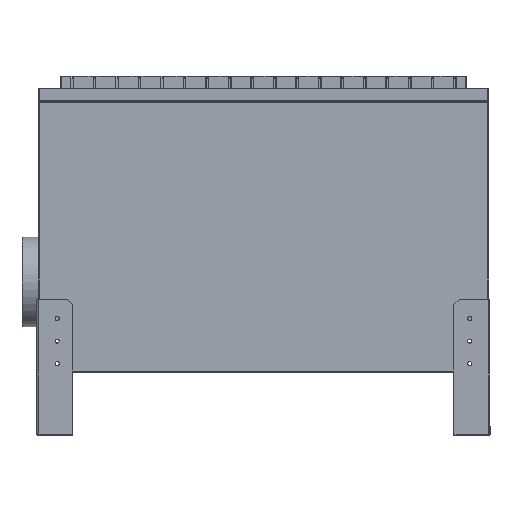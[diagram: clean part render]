
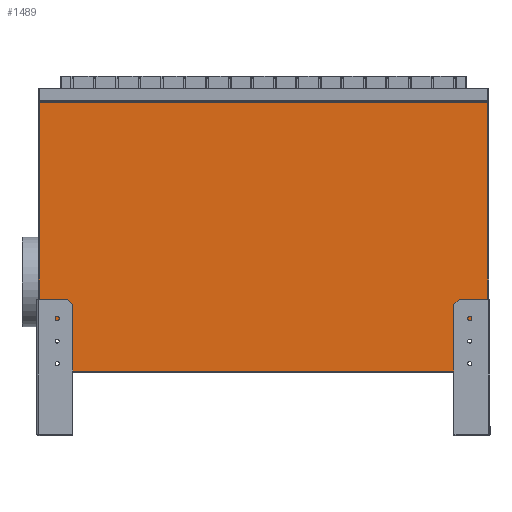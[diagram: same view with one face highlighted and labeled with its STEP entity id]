
A CAD part, front view. The second image highlights one B-rep face of the part: STEP entity #1489.
In plain terms, the highlighted planar face has unit normal (0, -1, 0).
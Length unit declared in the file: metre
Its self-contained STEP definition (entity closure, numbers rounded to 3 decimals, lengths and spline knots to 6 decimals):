
#1489=ADVANCED_FACE('0:1859',(#3060,#3061,#3062,#3063,#3064),#3065,.F.);
#3060=FACE_OUTER_BOUND('',#5064,.T.);
#3061=FACE_BOUND('',#5065,.T.);
#3062=FACE_BOUND('',#5066,.T.);
#3063=FACE_BOUND('',#5067,.T.);
#3064=FACE_BOUND('',#5068,.T.);
#3065=PLANE('',#5069);
#5064=EDGE_LOOP('',(#8254,#8255,#8256,#8257));
#5065=EDGE_LOOP('',(#8258,#8259,#8260,#8261,#8262,#8263));
#5066=EDGE_LOOP('',(#8264,#8265,#8266,#8267,#8268,#8269));
#5067=EDGE_LOOP('',(#8270,#8271,#8272,#8273,#8274,#8275));
#5068=EDGE_LOOP('',(#8276,#8277,#8278,#8279,#8280,#8281));
#5069=AXIS2_PLACEMENT_3D('',#8282,#8283,#8284);
#8254=ORIENTED_EDGE('',*,*,#12759,.F.);
#8255=ORIENTED_EDGE('',*,*,#12760,.F.);
#8256=ORIENTED_EDGE('',*,*,#12761,.F.);
#8257=ORIENTED_EDGE('',*,*,#12762,.F.);
#8258=ORIENTED_EDGE('',*,*,#12737,.T.);
#8259=ORIENTED_EDGE('',*,*,#12757,.T.);
#8260=ORIENTED_EDGE('',*,*,#12753,.T.);
#8261=ORIENTED_EDGE('',*,*,#12749,.T.);
#8262=ORIENTED_EDGE('',*,*,#12745,.T.);
#8263=ORIENTED_EDGE('',*,*,#12741,.T.);
#8264=ORIENTED_EDGE('',*,*,#12713,.T.);
#8265=ORIENTED_EDGE('',*,*,#12733,.T.);
#8266=ORIENTED_EDGE('',*,*,#12729,.T.);
#8267=ORIENTED_EDGE('',*,*,#12725,.T.);
#8268=ORIENTED_EDGE('',*,*,#12721,.T.);
#8269=ORIENTED_EDGE('',*,*,#12717,.T.);
#8270=ORIENTED_EDGE('',*,*,#12689,.T.);
#8271=ORIENTED_EDGE('',*,*,#12709,.T.);
#8272=ORIENTED_EDGE('',*,*,#12705,.T.);
#8273=ORIENTED_EDGE('',*,*,#12701,.T.);
#8274=ORIENTED_EDGE('',*,*,#12697,.T.);
#8275=ORIENTED_EDGE('',*,*,#12693,.T.);
#8276=ORIENTED_EDGE('',*,*,#12665,.T.);
#8277=ORIENTED_EDGE('',*,*,#12685,.T.);
#8278=ORIENTED_EDGE('',*,*,#12681,.T.);
#8279=ORIENTED_EDGE('',*,*,#12677,.T.);
#8280=ORIENTED_EDGE('',*,*,#12673,.T.);
#8281=ORIENTED_EDGE('',*,*,#12669,.T.);
#8282=CARTESIAN_POINT('',(0.53187,0.0,0.3835));
#8283=DIRECTION('',(0.0,1.0,0.0));
#8284=DIRECTION('',(-1.0,0.0,0.));
#12665=EDGE_CURVE('0:2044',#15198,#15196,#15199,.T.);
#12669=EDGE_CURVE('0:2053',#15204,#15198,#15205,.T.);
#12673=EDGE_CURVE('0:2062',#15210,#15204,#15211,.T.);
#12677=EDGE_CURVE('0:2071',#15216,#15210,#15217,.T.);
#12681=EDGE_CURVE('0:2080',#15222,#15216,#15223,.T.);
#12685=EDGE_CURVE('0:2089',#15196,#15222,#15227,.T.);
#12689=EDGE_CURVE('0:2098',#15234,#15232,#15235,.T.);
#12693=EDGE_CURVE('0:2107',#15240,#15234,#15241,.T.);
#12697=EDGE_CURVE('0:2116',#15246,#15240,#15247,.T.);
#12701=EDGE_CURVE('0:2125',#15252,#15246,#15253,.T.);
#12705=EDGE_CURVE('0:2134',#15258,#15252,#15259,.T.);
#12709=EDGE_CURVE('0:2143',#15232,#15258,#15263,.T.);
#12713=EDGE_CURVE('0:2152',#15270,#15268,#15271,.T.);
#12717=EDGE_CURVE('0:2161',#15276,#15270,#15277,.T.);
#12721=EDGE_CURVE('0:2170',#15282,#15276,#15283,.T.);
#12725=EDGE_CURVE('0:2179',#15288,#15282,#15289,.T.);
#12729=EDGE_CURVE('0:2188',#15294,#15288,#15295,.T.);
#12733=EDGE_CURVE('0:2197',#15268,#15294,#15299,.T.);
#12737=EDGE_CURVE('0:2206',#15306,#15304,#15307,.T.);
#12741=EDGE_CURVE('0:2215',#15312,#15306,#15313,.T.);
#12745=EDGE_CURVE('0:2224',#15318,#15312,#15319,.T.);
#12749=EDGE_CURVE('0:2233',#15324,#15318,#15325,.T.);
#12753=EDGE_CURVE('0:2242',#15330,#15324,#15331,.T.);
#12757=EDGE_CURVE('0:2251',#15304,#15330,#15335,.T.);
#12759=EDGE_CURVE('0:2254',#15337,#15338,#15339,.T.);
#12760=EDGE_CURVE('0:2257',#15340,#15337,#15341,.T.);
#12761=EDGE_CURVE('0:2260',#15342,#15340,#15343,.T.);
#12762=EDGE_CURVE('0:2263',#15338,#15342,#15344,.T.);
#15196=VERTEX_POINT('',#18799);
#15198=VERTEX_POINT('',#18802);
#15199=LINE('',#18803,#18804);
#15204=VERTEX_POINT('',#18811);
#15205=LINE('',#18812,#18813);
#15210=VERTEX_POINT('',#18820);
#15211=LINE('',#18821,#18822);
#15216=VERTEX_POINT('',#18829);
#15217=LINE('',#18830,#18831);
#15222=VERTEX_POINT('',#18838);
#15223=LINE('',#18839,#18840);
#15227=LINE('',#18846,#18847);
#15232=VERTEX_POINT('',#18853);
#15234=VERTEX_POINT('',#18856);
#15235=LINE('',#18857,#18858);
#15240=VERTEX_POINT('',#18865);
#15241=LINE('',#18866,#18867);
#15246=VERTEX_POINT('',#18874);
#15247=LINE('',#18875,#18876);
#15252=VERTEX_POINT('',#18883);
#15253=LINE('',#18884,#18885);
#15258=VERTEX_POINT('',#18892);
#15259=LINE('',#18893,#18894);
#15263=LINE('',#18900,#18901);
#15268=VERTEX_POINT('',#18907);
#15270=VERTEX_POINT('',#18910);
#15271=LINE('',#18911,#18912);
#15276=VERTEX_POINT('',#18919);
#15277=LINE('',#18920,#18921);
#15282=VERTEX_POINT('',#18928);
#15283=LINE('',#18929,#18930);
#15288=VERTEX_POINT('',#18937);
#15289=LINE('',#18938,#18939);
#15294=VERTEX_POINT('',#18946);
#15295=LINE('',#18947,#18948);
#15299=LINE('',#18954,#18955);
#15304=VERTEX_POINT('',#18961);
#15306=VERTEX_POINT('',#18964);
#15307=LINE('',#18965,#18966);
#15312=VERTEX_POINT('',#18973);
#15313=LINE('',#18974,#18975);
#15318=VERTEX_POINT('',#18982);
#15319=LINE('',#18983,#18984);
#15324=VERTEX_POINT('',#18991);
#15325=LINE('',#18992,#18993);
#15330=VERTEX_POINT('',#19000);
#15331=LINE('',#19001,#19002);
#15335=LINE('',#19008,#19009);
#15337=VERTEX_POINT('',#19011);
#15338=VERTEX_POINT('',#19012);
#15339=LINE('',#19013,#19014);
#15340=VERTEX_POINT('',#19015);
#15341=LINE('',#19016,#19017);
#15342=VERTEX_POINT('',#19018);
#15343=LINE('',#19019,#19020);
#15344=LINE('',#19021,#19022);
#18799=CARTESIAN_POINT('',(0.06837,0.0,0.149075));
#18802=CARTESIAN_POINT('',(0.07387,0.0,0.1459));
#18803=CARTESIAN_POINT('',(0.192803,0.0,0.077234));
#18804=VECTOR('',#22418,0.01);
#18811=CARTESIAN_POINT('',(0.07937,0.0,0.149075));
#18812=CARTESIAN_POINT('',(0.298437,0.0,0.275553));
#18813=VECTOR('',#22421,0.01);
#18820=CARTESIAN_POINT('',(0.07937,0.0,0.155426));
#18821=CARTESIAN_POINT('',(0.07937,0.0,0.267875));
#18822=VECTOR('',#22424,0.01);
#18829=CARTESIAN_POINT('',(0.07387,0.0,0.158601));
#18830=CARTESIAN_POINT('',(0.198303,0.0,0.08676));
#18831=VECTOR('',#22427,0.01);
#18838=CARTESIAN_POINT('',(0.06837,0.0,0.155426));
#18839=CARTESIAN_POINT('',(0.292937,0.0,0.28508));
#18840=VECTOR('',#22430,0.01);
#18846=CARTESIAN_POINT('',(0.06837,0.0,0.267875));
#18847=VECTOR('',#22433,0.01);
#18853=CARTESIAN_POINT('',(0.98437,0.0,0.149075));
#18856=CARTESIAN_POINT('',(0.98987,0.0,0.1459));
#18857=CARTESIAN_POINT('',(0.765303,0.0,0.275553));
#18858=VECTOR('',#22436,0.01);
#18865=CARTESIAN_POINT('',(0.99537,0.0,0.149075));
#18866=CARTESIAN_POINT('',(0.870937,0.0,0.077234));
#18867=VECTOR('',#22439,0.01);
#18874=CARTESIAN_POINT('',(0.99537,0.0,0.155426));
#18875=CARTESIAN_POINT('',(0.99537,0.0,0.267875));
#18876=VECTOR('',#22442,0.01);
#18883=CARTESIAN_POINT('',(0.98987,0.0,0.158601));
#18884=CARTESIAN_POINT('',(0.770803,0.0,0.28508));
#18885=VECTOR('',#22445,0.01);
#18892=CARTESIAN_POINT('',(0.98437,0.0,0.155426));
#18893=CARTESIAN_POINT('',(0.865437,0.0,0.08676));
#18894=VECTOR('',#22448,0.01);
#18900=CARTESIAN_POINT('',(0.98437,0.0,0.267875));
#18901=VECTOR('',#22451,0.01);
#18907=CARTESIAN_POINT('',(0.98437,0.0,0.099075));
#18910=CARTESIAN_POINT('',(0.98987,0.0,0.0959));
#18911=CARTESIAN_POINT('',(0.754478,0.0,0.231803));
#18912=VECTOR('',#22454,0.01);
#18919=CARTESIAN_POINT('',(0.99537,0.0,0.099075));
#18920=CARTESIAN_POINT('',(0.881762,0.0,0.033484));
#18921=VECTOR('',#22457,0.01);
#18928=CARTESIAN_POINT('',(0.99537,0.0,0.105426));
#18929=CARTESIAN_POINT('',(0.99537,0.0,0.242875));
#18930=VECTOR('',#22460,0.01);
#18937=CARTESIAN_POINT('',(0.98987,0.0,0.108601));
#18938=CARTESIAN_POINT('',(0.759978,0.0,0.24133));
#18939=VECTOR('',#22463,0.01);
#18946=CARTESIAN_POINT('',(0.98437,0.0,0.105426));
#18947=CARTESIAN_POINT('',(0.876262,0.0,0.04301));
#18948=VECTOR('',#22466,0.01);
#18954=CARTESIAN_POINT('',(0.98437,0.0,0.242875));
#18955=VECTOR('',#22469,0.01);
#18961=CARTESIAN_POINT('',(0.06837,0.0,0.099075));
#18964=CARTESIAN_POINT('',(0.07387,0.0,0.0959));
#18965=CARTESIAN_POINT('',(0.181978,0.0,0.033484));
#18966=VECTOR('',#22472,0.01);
#18973=CARTESIAN_POINT('',(0.07937,0.0,0.099075));
#18974=CARTESIAN_POINT('',(0.309262,0.0,0.231803));
#18975=VECTOR('',#22475,0.01);
#18982=CARTESIAN_POINT('',(0.07937,0.0,0.105426));
#18983=CARTESIAN_POINT('',(0.07937,0.0,0.242875));
#18984=VECTOR('',#22478,0.01);
#18991=CARTESIAN_POINT('',(0.07387,0.0,0.108601));
#18992=CARTESIAN_POINT('',(0.187478,0.0,0.04301));
#18993=VECTOR('',#22481,0.01);
#19000=CARTESIAN_POINT('',(0.06837,0.0,0.105426));
#19001=CARTESIAN_POINT('',(0.303762,0.0,0.24133));
#19002=VECTOR('',#22484,0.01);
#19008=CARTESIAN_POINT('',(0.06837,0.0,0.242875));
#19009=VECTOR('',#22487,0.01);
#19011=CARTESIAN_POINT('',(0.033745,0.0,0.681625));
#19012=CARTESIAN_POINT('',(1.029995,0.0,0.681625));
#19013=CARTESIAN_POINT('',(0.53187,0.0,0.681625));
#19014=VECTOR('',#22488,0.01);
#19015=CARTESIAN_POINT('',(0.033745,0.0,0.085375));
#19016=CARTESIAN_POINT('',(0.033745,0.0,0.3835));
#19017=VECTOR('',#22489,0.01);
#19018=CARTESIAN_POINT('',(1.029995,0.0,0.085375));
#19019=CARTESIAN_POINT('',(0.53187,0.0,0.085375));
#19020=VECTOR('',#22490,0.01);
#19021=CARTESIAN_POINT('',(1.029995,0.0,0.3835));
#19022=VECTOR('',#22491,0.01);
#22418=DIRECTION('',(-0.866,0.0,0.5));
#22421=DIRECTION('',(-0.866,0.0,-0.5));
#22424=DIRECTION('',(0.,0.0,-1.0));
#22427=DIRECTION('',(0.866,0.0,-0.5));
#22430=DIRECTION('',(0.866,0.0,0.5));
#22433=DIRECTION('',(0.,0.0,1.0));
#22436=DIRECTION('',(-0.866,0.0,0.5));
#22439=DIRECTION('',(-0.866,0.0,-0.5));
#22442=DIRECTION('',(0.,0.0,-1.0));
#22445=DIRECTION('',(0.866,0.0,-0.5));
#22448=DIRECTION('',(0.866,0.0,0.5));
#22451=DIRECTION('',(0.,0.0,1.0));
#22454=DIRECTION('',(-0.866,0.0,0.5));
#22457=DIRECTION('',(-0.866,0.0,-0.5));
#22460=DIRECTION('',(0.,0.0,-1.0));
#22463=DIRECTION('',(0.866,0.0,-0.5));
#22466=DIRECTION('',(0.866,0.0,0.5));
#22469=DIRECTION('',(0.,0.0,1.0));
#22472=DIRECTION('',(-0.866,0.0,0.5));
#22475=DIRECTION('',(-0.866,0.0,-0.5));
#22478=DIRECTION('',(0.,0.0,-1.0));
#22481=DIRECTION('',(0.866,0.0,-0.5));
#22484=DIRECTION('',(0.866,0.0,0.5));
#22487=DIRECTION('',(0.,0.0,1.0));
#22488=DIRECTION('',(1.0,0.0,0.));
#22489=DIRECTION('',(0.,0.0,1.0));
#22490=DIRECTION('',(-1.0,0.0,0.));
#22491=DIRECTION('',(0.,0.0,-1.0));
